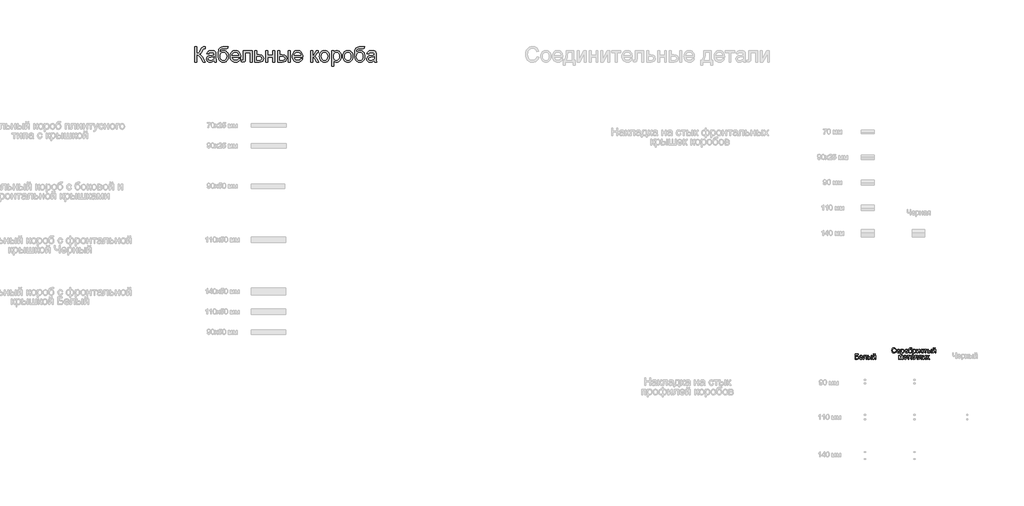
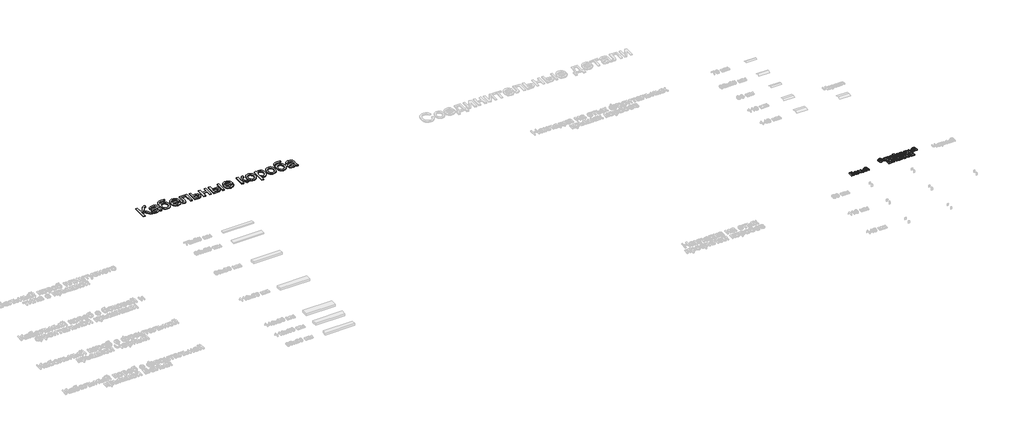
# One storey, part 31 of 48: 3 proxies.
"""IFC4 building model written with IfcOpenShell, lengths in millimetres."""

from ifc_helpers import new_model, si_unit, origin, origin_with_axes, place, context, project, spatial, polyline, outline, extrude, element, save

model = new_model("IFC4")

# Units and contexts
model_context = context("Model", 3, world=origin())
ifc_project = project(units=[si_unit("LENGTHUNIT", "METRE", prefix="MILLI")], contexts=[model_context])

# Site, building, storey
site = spatial("IfcSite", under=ifc_project)
building = spatial("IfcBuilding", under=site)
storey = spatial("IfcBuildingStorey", under=building, Name="Этаж 01", Elevation=0.0)

# Proxies
placement = place(None, origin())
element("IfcBuildingElementProxy", 1, Name="300 мм Arial", ObjectType="300 мм Arial", at=placement, inside=storey, context=model_context, shape_type="SweptSolid", body=[
    extrude(outline(polyline([(-106.1806555, 6199.2270475), (-68.5095392, 6199.2270475), (-68.5095392, 6067.3781405), (-43.0061198, 6069.870541), (-26.3870507, 6077.3477425), (-12.9501608, 6094.9416989), (3.0067207, 6127.7843641), (23.7920534, 6169.9068525), (33.8168378, 6181.3203914), (47.3365011, 6190.7657616), (63.3853532, 6197.1117261), (80.9977037, 6199.2270475), (105.7193738, 6198.7855891), (105.7193738, 6161.1144728), (97.4052407, 6161.335202), (89.0911076, 6161.5559312), (71.837442, 6159.2934569), (59.660548, 6152.5060341), (49.1759111, 6138.2506068), (37.2933227, 6113.7312718), (22.7159986, 6083.1970662), (10.621878, 6066.4952237), (-15.387379, 6050.8970271), (-0.7962594, 6044.6890184), (13.6936927, 6033.8640907), (42.3700942, 5998.3634782), (105.7193738, 5897.8581171), (62.0149927, 5897.8581171), (8.4513742, 5982.7652816), (-12.2327909, 6009.9977463), (-29.2565303, 6027.095062), (-46.6665457, 6036.1173679), (-68.5095392, 6039.1248032), (-68.5095392, 5897.8581171), (-106.1806555, 5897.8581171), (-106.1806555, 6199.2270475)])), origin_with_axes(), (0.0, 0.0, 1.0), 20.0),
    extrude(outline(polyline([(275.2393971, 5926.1114543), (257.2407705, 5910.6788046), (238.708715, 5900.5804438), (219.2201663, 5895.0070316), (198.3520601, 5893.1492275), (166.8705584, 5897.6189938), (143.6480075, 5911.0282925), (129.3282008, 5931.3905609), (124.5549319, 5956.7192363), (126.3575537, 5972.335827), (131.765419, 5986.5176779), (140.1071433, 5998.6577838), (150.7113418, 6008.1491392), (177.0884808, 6020.5099743), (209.6828256, 6026.175357), (248.2000705, 6032.1350453), (275.0186679, 6039.1248032), (275.2393971, 6047.5125127), (272.6458291, 6064.3247199), (264.8651249, 6075.3243915), (247.4643065, 6083.4913718), (223.220883, 6086.2136986), (200.7800813, 6084.4018798), (185.1083083, 6078.9664233), (174.4213364, 6068.9140478), (166.9349378, 6053.2514718), (129.2638215, 6057.9603614), (135.8029239, 6078.5617531), (145.5609938, 6094.7485609), (159.4485392, 6107.12779), (178.3760678, 6116.3064458), (201.5250424, 6121.9902226), (228.0769254, 6123.8848149), (253.5435565, 6122.2109518), (273.731081, 6117.1893626), (288.9521985, 6109.6385846), (299.5196088, 6100.3771554), (306.5277608, 6088.9268283), (311.0711035, 6074.8093568), (312.9105134, 6041.84713), (312.9105134, 5994.9789638), (314.8234998, 5929.5327569), (322.3282925, 5897.8581171), (284.6571762, 5897.8581171), (275.2393971, 5926.1114543)]), holes=[polyline([(275.2393971, 6001.4536869), (214.4652915, 5989.9021923), (182.0548878, 5983.7953511), (167.3763962, 5973.8625373), (162.2260482, 5959.3679867), (165.0311484, 5948.1659799), (173.4464491, 5938.9873241), (187.2880091, 5932.8620889), (206.3718876, 5930.8203438), (226.6053974, 5933.0736211), (244.4844623, 5939.8334527), (258.979013, 5949.7938577), (269.0589796, 5961.648855), (273.5287459, 5973.8625373), (275.0186679, 5990.7851091), (275.2393971, 6001.4536869)])]), origin_with_axes(), (0.0, 0.0, 1.0), 20.0),
    extrude(outline(polyline([(520.1016531, 6203.9359371), (553.0638799, 6203.9359371), (549.4954245, 6186.0292809), (543.3517952, 6174.5421656), (534.835327, 6167.7455458), (524.1483551, 6163.910376), (478.0159529, 6161.5559312), (439.7102401, 6159.3854274), (415.8806839, 6152.8739161), (401.6252566, 6141.5799389), (392.0419306, 6125.0620373), (386.404139, 6103.1914527), (383.9853149, 6075.8394263), (399.1328561, 6096.8822765), (416.6164479, 6111.8918619), (436.4544845, 6120.8865767), (458.6653599, 6123.8848149), (479.1885767, 6121.9787263), (497.8631865, 6116.2604606), (514.6891893, 6106.7300176), (529.666585, 6093.3873975), (541.9630407, 6076.7936203), (550.7462233, 6057.5097059), (556.0161329, 6035.5356545), (557.7727694, 6010.871466), (554.2870875, 5974.911001), (543.8300418, 5946.0506584), (528.5905302, 5923.6190538), (510.7574505, 5906.9448024), (488.1694959, 5896.5981212), (458.6653599, 5893.1492275), (424.6638665, 5897.5914026), (399.1788413, 5910.9179279), (380.4260566, 5931.1698317), (366.6212847, 5956.3881425), (358.1232107, 5994.3627615), (355.2905193, 6052.8835898), (357.0770462, 6092.5481667), (362.436627, 6125.1632048), (371.3692617, 6150.7287042), (383.8749503, 6169.2446649), (400.08705, 6182.3619573), (420.138918, 6191.7314519), (444.0305543, 6197.3531486), (471.761959, 6199.2270475), (513.7005064, 6200.0731761), (520.1016531, 6203.9359371)]), holes=[polyline([(520.1016531, 6012.0486884), (516.018163, 6041.6907801), (503.7676925, 6065.4283659), (484.0860058, 6081.0173654), (457.7088667, 6086.2136986), (430.2096876, 6080.7230598), (419.122644, 6073.8597614), (409.810631, 6064.2511435), (397.1738844, 6038.6005714), (392.9616356, 6005.5739653), (397.6153428, 5973.5590346), (411.5764646, 5950.0605722), (432.3617973, 5935.6304009), (457.4881376, 5930.8203438), (482.7432365, 5936.384559), (502.737623, 5953.0772046), (515.7606456, 5978.9485059), (520.1016531, 6012.0486884)])]), origin_with_axes(), (0.0, 0.0, 1.0), 20.0),
    extrude(outline(polyline([(759.8135612, 5963.7825706), (796.7489135, 5959.0736811), (783.4407823, 5931.2434081), (762.2047942, 5910.4396813), (733.5191956, 5897.471841), (697.8622332, 5893.1492275), (674.4879309, 5895.0139294), (653.6612115, 5900.608035), (635.3820748, 5909.9315443), (619.650521, 5922.9844573), (606.9999789, 5939.4034906), (597.9638774, 5958.8253607), (592.5422165, 5981.2500676), (590.7349962, 6006.6776112), (592.5606106, 6032.9673783), (598.0374538, 6056.1393455), (607.1655258, 6076.1935128), (619.9448266, 6093.1298801), (635.6349937, 6106.5851641), (653.4956646, 6116.1960812), (673.5268392, 6121.9626315), (695.7285176, 6123.8848149), (717.2151254, 6121.96723), (736.6461925, 6116.2144753), (754.021719, 6106.6265508), (769.3417049, 6093.2034565), (781.8473934, 6076.3038774), (790.7800281, 6056.2864983), (796.1396089, 6033.1513193), (797.9261359, 6006.8983404), (797.7054067, 5996.7447974), (628.4061125, 5996.7447974), (634.9268209, 5968.5466424), (650.074362, 5947.816492), (671.9357496, 5935.0693809), (698.5979972, 5930.8203438), (718.6475659, 5932.7885125), (735.5333495, 5938.6930185), (749.2553479, 5948.9017439), (759.8135612, 5963.7825706)]), holes=[polyline([(628.4061125, 6034.4159137), (760.2550196, 6034.4159137), (755.1598539, 6054.3183296), (745.1718578, 6068.5553628), (723.2093027, 6081.7991147), (695.5813648, 6086.2136986), (670.1883101, 6082.6912285), (649.1914452, 6072.1238182), (634.5957271, 6055.6519019), (628.4061125, 6034.4159137)])]), origin_with_axes(), (0.0, 0.0, 1.0), 20.0),
    extrude(outline(polyline([(854.4328103, 6119.1759254), (1023.9528337, 6119.1759254), (1023.9528337, 5898.0788463), (986.2817174, 5898.0788463), (986.2817174, 6081.5048091), (892.1039267, 6081.5048091), (892.1039267, 5975.9226765), (889.5655409, 5927.2151003), (884.8106661, 5916.1878375), (875.6228133, 5906.6504968), (861.6800857, 5900.056212), (842.6605865, 5897.8581171), (812.0528045, 5899.7711035), (812.0528045, 5935.5292334), (828.9017999, 5935.5292334), (845.9347363, 5937.84689), (852.7405532, 5945.2045299), (854.4328103, 5978.056392), (854.4328103, 6119.1759254)])), origin_with_axes(), (0.0, 0.0, 1.0), 20.0),
    extrude(outline(polyline([(1080.4595082, 6119.1759254), (1118.1306245, 6119.1759254), (1118.1306245, 6039.1248032), (1161.5406999, 6039.1248032), (1199.175028, 6034.4067166), (1214.3225692, 6028.5091084), (1227.0236951, 6020.2524569), (1237.0668735, 6009.9218706), (1244.2405724, 5997.8024581), (1249.9795316, 5968.1971546), (1245.0958981, 5941.2406014), (1230.4449976, 5918.496297), (1219.2131005, 5909.4670933), (1205.0519429, 5903.0176621), (1167.9418466, 5897.8581171), (1080.4595082, 5897.8581171), (1080.4595082, 6119.1759254)]), holes=[polyline([(1118.1306245, 5935.5292334), (1153.3001432, 5935.5292334), (1180.5877902, 5937.5065991), (1198.7335696, 5943.4386963), (1208.9147038, 5953.5646482), (1212.3084153, 5968.1235782), (1209.7976206, 5980.4292309), (1202.2652368, 5991.3001439), (1186.1244142, 5998.9153012), (1157.7883036, 6001.4536869), (1118.1306245, 6001.4536869), (1118.1306245, 5935.5292334)])]), origin_with_axes(), (0.0, 0.0, 1.0), 20.0),
    extrude(outline(polyline([(1297.0684269, 6119.1759254), (1334.7395432, 6119.1759254), (1334.7395432, 6034.4159137), (1433.6262236, 6034.4159137), (1433.6262236, 6119.1759254), (1471.2973399, 6119.1759254), (1471.2973399, 5897.8581171), (1433.6262236, 5897.8581171), (1433.6262236, 5996.7447974), (1334.7395432, 5996.7447974), (1334.7395432, 5897.8581171), (1297.0684269, 5897.8581171), (1297.0684269, 6119.1759254)])), origin_with_axes(), (0.0, 0.0, 1.0), 20.0),
    extrude(outline(polyline([(1734.995154, 6119.1759254), (1772.6662703, 6119.1759254), (1772.6662703, 5897.8581171), (1734.995154, 5897.8581171), (1734.995154, 6119.1759254)])), origin_with_axes(), (0.0, 0.0, 1.0), 20.0),
    extrude(outline(polyline([(1527.8040143, 6119.1759254), (1565.4751306, 6119.1759254), (1565.4751306, 6039.1248032), (1612.0489912, 6039.1248032), (1652.3044785, 6034.4067166), (1668.5211767, 6028.5091084), (1682.1305113, 6020.2524569), (1692.8979574, 6009.9218706), (1700.5889904, 5997.8024581), (1705.2036102, 5983.8942194), (1706.7418168, 5968.1971546), (1701.5822718, 5941.2406014), (1686.1036368, 5918.496297), (1674.2417418, 5909.4670933), (1659.2942364, 5903.0176621), (1620.1423951, 5897.8581171), (1527.8040143, 5897.8581171), (1527.8040143, 6119.1759254)]), holes=[polyline([(1565.4751306, 5935.5292334), (1604.1763165, 5935.5292334), (1634.1770932, 5937.5065991), (1654.1346915, 5943.4386963), (1665.3366982, 5953.5646482), (1669.0707005, 5968.1235782), (1666.3023885, 5980.4292309), (1657.9974524, 5991.3001439), (1640.2379491, 5998.9153012), (1609.1059353, 6001.4536869), (1565.4751306, 6001.4536869), (1565.4751306, 5935.5292334)])]), origin_with_axes(), (0.0, 0.0, 1.0), 20.0),
    extrude(outline(polyline([(1984.1248411, 5963.7825706), (2021.0601935, 5959.0736811), (2007.7520623, 5931.2434081), (1986.5160741, 5910.4396813), (1957.8304755, 5897.471841), (1922.1735131, 5893.1492275), (1898.7992109, 5895.0139294), (1877.9724914, 5900.608035), (1859.6933548, 5909.9315443), (1843.961801, 5922.9844573), (1831.3112589, 5939.4034906), (1822.2751574, 5958.8253607), (1816.8534965, 5981.2500676), (1815.0462762, 6006.6776112), (1816.8718906, 6032.9673783), (1822.3487338, 6056.1393455), (1831.4768058, 6076.1935128), (1844.2561066, 6093.1298801), (1859.9462737, 6106.5851641), (1877.8069445, 6116.1960812), (1897.8381192, 6121.9626315), (1920.0397976, 6123.8848149), (1941.5264054, 6121.96723), (1960.9574725, 6116.2144753), (1978.332999, 6106.6265508), (1993.6529848, 6093.2034565), (2006.1586734, 6076.3038774), (2015.0913081, 6056.2864983), (2020.4508889, 6033.1513193), (2022.2374158, 6006.8983404), (2022.0166866, 5996.7447974), (1852.7173925, 5996.7447974), (1859.2381008, 5968.5466424), (1874.385642, 5947.816492), (1896.2470295, 5935.0693809), (1922.9092771, 5930.8203438), (1942.9588459, 5932.7885125), (1959.8446295, 5938.6930185), (1973.5666279, 5948.9017439), (1984.1248411, 5963.7825706)]), holes=[polyline([(1852.7173925, 6034.4159137), (1984.5662995, 6034.4159137), (1979.4711339, 6054.3183296), (1969.4831377, 6068.5553628), (1947.5205826, 6081.7991147), (1919.8926448, 6086.2136986), (1894.4995901, 6082.6912285), (1873.5027252, 6072.1238182), (1858.907007, 6055.6519019), (1852.7173925, 6034.4159137)])]), origin_with_axes(), (0.0, 0.0, 1.0), 20.0),
    extrude(outline(polyline([(2177.6307706, 6119.1759254), (2215.3018869, 6119.1759254), (2215.3018869, 6024.9981346), (2230.624172, 6026.6903918), (2240.5385918, 6031.7671633), (2249.3125774, 6045.0109151), (2261.2135599, 6071.2041132), (2278.3936491, 6105.2331978), (2293.5503873, 6116.3064458), (2321.1047487, 6119.1759254), (2328.3152358, 6119.1759254), (2328.3152358, 6081.2840799), (2318.1616928, 6081.5048091), (2299.767593, 6077.5316835), (2286.8181468, 6052.736437), (2271.6246204, 6025.9178396), (2250.3242528, 6012.7844524), (2262.2620236, 6007.4823531), (2274.0894297, 5998.1243549), (2297.4131482, 5967.2406614), (2337.7330149, 5897.8581171), (2294.9115507, 5897.8581171), (2255.4010244, 5965.7691334), (2235.5353966, 5994.5007172), (2226.2463763, 5999.7154445), (2215.3018869, 6001.4536869), (2215.3018869, 5897.8581171), (2177.6307706, 5897.8581171), (2177.6307706, 6119.1759254)])), origin_with_axes(), (0.0, 0.0, 1.0), 20.0),
    extrude(outline(polyline([(2351.8596835, 6008.5170212), (2353.8968301, 6037.1796272), (2360.0082697, 6061.8783046), (2370.1940024, 6082.6130536), (2384.4540283, 6099.383874), (2398.8106231, 6110.1030357), (2414.6571401, 6117.7595797), (2431.9935791, 6122.3535061), (2450.8199402, 6123.8848149), (2471.6029737, 6122.020113), (2490.3948458, 6116.4260075), (2507.1955567, 6107.1024981), (2522.0051063, 6094.0495851), (2534.0923291, 6077.7087267), (2542.7260597, 6058.5213814), (2547.906298, 6036.4875492), (2549.6330441, 6011.60723), (2546.5796236, 5973.5498376), (2537.4193619, 5944.5791305), (2522.4189735, 5922.8832898), (2501.8451729, 5906.6504968), (2477.4086114, 5896.5245448), (2450.8199402, 5893.1492275), (2429.7334041, 5895.0070316), (2410.766788, 5900.5804438), (2393.9200919, 5909.8694642), (2379.1933158, 5922.8740927), (2367.2348517, 5939.3736002), (2358.6930916, 5959.1472575), (2353.5680355, 5982.1950645), (2351.8596835, 6008.5170212)]), holes=[polyline([(2389.5307998, 6008.5905976), (2393.8902015, 5974.4971337), (2406.9684064, 5950.207725), (2426.6500931, 5935.6671891), (2450.8199402, 5930.8203438), (2474.8794227, 5935.6947803), (2494.5243212, 5950.3180896), (2507.6025262, 5974.9293951), (2511.9619278, 6009.76782), (2507.574935, 6042.8680025), (2494.4139566, 6066.8263175), (2474.741467, 6081.3668533), (2450.8199402, 6086.2136986), (2426.6500931, 6081.3852474), (2406.9684064, 6066.8998939), (2393.8902015, 6042.6656674), (2389.5307998, 6008.5905976)])]), origin_with_axes(), (0.0, 0.0, 1.0), 20.0),
    extrude(outline(polyline([(2592.01305, 5813.0981054), (2592.01305, 6119.1759254), (2629.6841663, 6119.1759254), (2629.6841663, 6082.2405731), (2641.9714249, 6100.4599289), (2655.7302115, 6113.4737544), (2671.7698665, 6121.2820498), (2690.8997303, 6123.8848149), (2716.3755584, 6120.2427832), (2738.6508132, 6109.3166879), (2756.7873956, 6091.7687167), (2769.8472064, 6068.2610572), (2777.7382752, 6040.5043607), (2780.3686315, 6010.2092784), (2777.3979844, 5977.9920127), (2768.4860431, 5949.1776554), (2753.917916, 5925.2285375), (2733.9787119, 5907.6069899), (2710.756161, 5896.7636681), (2686.3379935, 5893.1492275), (2669.0199486, 5895.5680517), (2653.5597078, 5902.824524), (2640.325153, 5913.7782104), (2629.6841663, 5927.2886767), (2629.6841663, 5813.0981054), (2592.01305, 5813.0981054)]), holes=[polyline([(2629.6841663, 6006.7511876), (2633.7584594, 5972.9796205), (2645.9813387, 5949.3615964), (2664.0167535, 5935.455657), (2685.5286531, 5930.8203438), (2707.3900407, 5935.6212039), (2725.885308, 5950.023784), (2738.4944634, 5974.5063308), (2742.6975152, 6009.5470908), (2738.5956309, 6043.134717), (2726.2899782, 6067.0838349), (2708.2821545, 6081.4312327), (2687.0737575, 6086.2136986), (2665.782587, 6081.12773), (2647.0849846, 6065.8698243), (2634.0343709, 6040.918228), (2629.6841663, 6006.7511876)])]), origin_with_axes(), (0.0, 0.0, 1.0), 20.0),
    extrude(outline(polyline([(2813.3308583, 6008.5170212), (2815.3680048, 6037.1796272), (2821.4794445, 6061.8783046), (2831.6651772, 6082.6130536), (2845.925203, 6099.383874), (2860.2817979, 6110.1030357), (2876.1283148, 6117.7595797), (2893.4647539, 6122.3535061), (2912.291115, 6123.8848149), (2933.0741484, 6122.020113), (2951.8660206, 6116.4260075), (2968.6667315, 6107.1024981), (2983.476281, 6094.0495851), (2995.5635038, 6077.7087267), (3004.1972344, 6058.5213814), (3009.3774728, 6036.4875492), (3011.1042189, 6011.60723), (3008.0507983, 5973.5498376), (2998.8905366, 5944.5791305), (2983.8901483, 5922.8832898), (2963.3163477, 5906.6504968), (2938.8797862, 5896.5245448), (2912.291115, 5893.1492275), (2891.2045789, 5895.0070316), (2872.2379627, 5900.5804438), (2855.3912666, 5909.8694642), (2840.6644905, 5922.8740927), (2828.7060264, 5939.3736002), (2820.1642663, 5959.1472575), (2815.0392103, 5982.1950645), (2813.3308583, 6008.5170212)]), holes=[polyline([(2851.0019746, 6008.5905976), (2855.3613762, 5974.4971337), (2868.4395811, 5950.207725), (2888.1212679, 5935.6671891), (2912.291115, 5930.8203438), (2936.3505975, 5935.6947803), (2955.995496, 5950.3180896), (2969.0737009, 5974.9293951), (2973.4331026, 6009.76782), (2969.0461098, 6042.8680025), (2955.8851314, 6066.8263175), (2936.2126417, 6081.3668533), (2912.291115, 6086.2136986), (2888.1212679, 6081.3852474), (2868.4395811, 6066.8998939), (2855.3613762, 6042.6656674), (2851.0019746, 6008.5905976)])]), origin_with_axes(), (0.0, 0.0, 1.0), 20.0),
    extrude(outline(polyline([(3208.8775795, 6203.9359371), (3241.8398062, 6203.9359371), (3238.2713509, 6186.0292809), (3232.1277216, 6174.5421656), (3223.6112534, 6167.7455458), (3212.9242814, 6163.910376), (3166.7918792, 6161.5559312), (3128.4861665, 6159.3854274), (3104.6566102, 6152.8739161), (3090.4011829, 6141.5799389), (3080.817857, 6125.0620373), (3075.1800654, 6103.1914527), (3072.7612413, 6075.8394263), (3087.9087824, 6096.8822765), (3105.3923742, 6111.8918619), (3125.2304108, 6120.8865767), (3147.4412863, 6123.8848149), (3167.9645031, 6121.9787263), (3186.6391129, 6116.2604606), (3203.4651156, 6106.7300176), (3218.4425114, 6093.3873975), (3230.738967, 6076.7936203), (3239.5221497, 6057.5097059), (3244.7920593, 6035.5356545), (3246.5486958, 6010.871466), (3243.0630139, 5974.911001), (3232.6059682, 5946.0506584), (3217.3664565, 5923.6190538), (3199.5333768, 5906.9448024), (3176.9454223, 5896.5981212), (3147.4412863, 5893.1492275), (3113.4397929, 5897.5914026), (3087.9547677, 5910.9179279), (3069.201983, 5931.1698317), (3055.3972111, 5956.3881425), (3046.899137, 5994.3627615), (3044.0664456, 6052.8835898), (3045.8529726, 6092.5481667), (3051.2125534, 6125.1632048), (3060.1451881, 6150.7287042), (3072.6508767, 6169.2446649), (3088.8629763, 6182.3619573), (3108.9148443, 6191.7314519), (3132.8064807, 6197.3531486), (3160.5378853, 6199.2270475), (3202.4764328, 6200.0731761), (3208.8775795, 6203.9359371)]), holes=[polyline([(3208.8775795, 6012.0486884), (3204.7940893, 6041.6907801), (3192.5436189, 6065.4283659), (3172.8619322, 6081.0173654), (3146.4847931, 6086.2136986), (3118.985614, 6080.7230598), (3107.8985703, 6073.8597614), (3098.5865573, 6064.2511435), (3085.9498108, 6038.6005714), (3081.7375619, 6005.5739653), (3086.3912692, 5973.5590346), (3100.3523909, 5950.0605722), (3121.1377236, 5935.6304009), (3146.2640639, 5930.8203438), (3171.5191629, 5936.384559), (3191.5135493, 5953.0772046), (3204.5365719, 5978.9485059), (3208.8775795, 6012.0486884)])]), origin_with_axes(), (0.0, 0.0, 1.0), 20.0),
    extrude(outline(polyline([(3434.9042773, 5926.1114543), (3416.9056507, 5910.6788046), (3398.3735952, 5900.5804438), (3378.8850465, 5895.0070316), (3358.0169403, 5893.1492275), (3326.5354386, 5897.6189938), (3303.3128876, 5911.0282925), (3288.993081, 5931.3905609), (3284.2198121, 5956.7192363), (3286.0224339, 5972.335827), (3291.4302992, 5986.5176779), (3299.7720234, 5998.6577838), (3310.3762219, 6008.1491392), (3336.753361, 6020.5099743), (3369.3477058, 6026.175357), (3407.8649507, 6032.1350453), (3434.6835481, 6039.1248032), (3434.9042773, 6047.5125127), (3432.3107092, 6064.3247199), (3424.5300051, 6075.3243915), (3407.1291867, 6083.4913718), (3382.8857632, 6086.2136986), (3360.4449615, 6084.4018798), (3344.7731885, 6078.9664233), (3334.0862165, 6068.9140478), (3326.5998179, 6053.2514718), (3288.9287016, 6057.9603614), (3295.4678041, 6078.5617531), (3305.225874, 6094.7485609), (3319.1134193, 6107.12779), (3338.040948, 6116.3064458), (3361.1899225, 6121.9902226), (3387.7418055, 6123.8848149), (3413.2084366, 6122.2109518), (3433.3959611, 6117.1893626), (3448.6170787, 6109.6385846), (3459.184489, 6100.3771554), (3466.192641, 6088.9268283), (3470.7359836, 6074.8093568), (3472.5753936, 6041.84713), (3472.5753936, 5994.9789638), (3474.48838, 5929.5327569), (3481.9931727, 5897.8581171), (3444.3220564, 5897.8581171), (3434.9042773, 5926.1114543)]), holes=[polyline([(3434.9042773, 6001.4536869), (3374.1301717, 5989.9021923), (3341.7197679, 5983.7953511), (3327.0412763, 5973.8625373), (3321.8909284, 5959.3679867), (3324.6960286, 5948.1659799), (3333.1113292, 5938.9873241), (3346.9528893, 5932.8620889), (3366.0367678, 5930.8203438), (3386.2702776, 5933.0736211), (3404.1493425, 5939.8334527), (3418.6438931, 5949.7938577), (3428.7238598, 5961.648855), (3433.193626, 5973.8625373), (3434.6835481, 5990.7851091), (3434.9042773, 6001.4536869)])]), origin_with_axes(), (0.0, 0.0, 1.0), 20.0),
])
element("IfcBuildingElementProxy", 2, Name="100 мм Arial", ObjectType="100 мм Arial", at=placement, inside=storey, context=model_context, shape_type="SweptSolid", body=[
    extrude(outline(polyline([(12911.066508, 133.8288833), (12973.8517019, 133.8288833), (12973.8517019, 121.2718445), (12923.6235468, 121.2718445), (12923.6235468, 91.4488774), (12947.143469, 91.4488774), (12967.8674881, 88.8982289), (12980.2037976, 79.2597206), (12984.8391108, 62.7786073), (12981.5404356, 48.4679976), (12971.6934608, 37.5909533), (12949.3998119, 33.3725731), (12911.066508, 33.3725731), (12911.066508, 133.8288833)]), holes=[polyline([(12923.6235468, 45.9296119), (12950.5279834, 45.9296119), (12966.8374185, 50.0744157), (12970.9209086, 55.2554205), (12972.282072, 62.5088271), (12969.1673378, 72.3435391), (12960.4975854, 77.5919889), (12941.5761881, 78.8918386), (12923.6235468, 78.8918386), (12923.6235468, 45.9296119)])]), origin_with_axes(), (0.0, 0.0, 1.0), 20.0),
    extrude(outline(polyline([(13052.1860414, 55.347391), (13064.4978255, 53.7777611), (13060.0617817, 44.5010035), (13052.983119, 37.5664279), (13043.4212528, 33.2438144), (13031.5355987, 31.8029433), (13016.8019248, 34.2892124), (13005.465028, 41.7480199), (12998.2361468, 53.6949877), (12995.8265197, 69.6457378), (12998.2606722, 86.1329826), (13005.5631298, 98.4631608), (13016.7467425, 106.1518945), (13030.8243602, 108.7148057), (13044.4635851, 106.1580259), (13055.3620893, 98.4876863), (13062.508197, 86.1820335), (13064.8902329, 69.7193142), (13064.8166565, 66.3347999), (13008.3835585, 66.3347999), (13010.5571279, 56.9354149), (13015.6063083, 50.0253648), (13022.8934375, 45.7763277), (13031.7808534, 44.359982), (13044.0926375, 46.9842069), (13052.1860414, 55.347391)]), holes=[polyline([(13008.3835585, 78.8918386), (13052.3331942, 78.8918386), (13047.3054736, 90.271655), (13039.9846219, 94.686239), (13030.7753092, 96.157767), (13015.3120027, 91.4611401), (13010.4467633, 85.9705014), (13008.3835585, 78.8918386)])]), origin_with_axes(), (0.0, 0.0, 1.0), 20.0),
    extrude(outline(polyline([(13083.7257911, 107.1451759), (13140.2324655, 107.1451759), (13140.2324655, 33.4461495), (13127.6754268, 33.4461495), (13127.6754268, 94.5881371), (13096.2828298, 94.5881371), (13096.2828298, 59.3940929), (13095.4367013, 43.1582342), (13090.7891254, 36.3033663), (13079.8017165, 33.3725731), (13069.5991225, 34.0102352), (13069.5991225, 45.9296119), (13075.2154543, 45.9296119), (13080.8930997, 46.7021641), (13083.1617054, 49.1547107), (13083.7257911, 60.1053314), (13083.7257911, 107.1451759)])), origin_with_axes(), (0.0, 0.0, 1.0), 20.0),
    extrude(outline(polyline([(13228.1317369, 107.1451759), (13240.6887757, 107.1451759), (13240.6887757, 33.3725731), (13228.1317369, 33.3725731), (13228.1317369, 107.1451759)])), origin_with_axes(), (0.0, 0.0, 1.0), 20.0),
    extrude(outline(polyline([(13159.0680237, 107.1451759), (13171.6250625, 107.1451759), (13171.6250625, 80.4614685), (13187.1496827, 80.4614685), (13200.5681784, 78.888773), (13210.5101894, 74.1706864), (13216.6630157, 66.6873535), (13218.7139578, 56.8189189), (13216.9941095, 47.8334012), (13211.8345645, 40.2519664), (13202.8980977, 35.0924214), (13189.847484, 33.3725731), (13159.0680237, 33.3725731), (13159.0680237, 107.1451759)]), holes=[polyline([(13171.6250625, 45.9296119), (13184.5254578, 45.9296119), (13201.1782494, 48.5660995), (13206.1569191, 56.7943935), (13202.4658364, 64.5199154), (13186.168664, 67.9044297), (13171.6250625, 67.9044297), (13171.6250625, 45.9296119)])]), origin_with_axes(), (0.0, 0.0, 1.0), 20.0),
    extrude(outline(polyline([(13259.5243338, 107.1451759), (13272.0813726, 107.1451759), (13272.0813726, 50.8837561), (13302.9344093, 107.1451759), (13319.170268, 107.1451759), (13319.170268, 33.3725731), (13306.6132292, 33.3725731), (13306.6132292, 89.2906364), (13275.9563963, 33.3725731), (13259.5243338, 33.3725731), (13259.5243338, 107.1451759)])), origin_with_axes(), (0.0, 0.0, 1.0), 20.0),
    extrude(outline(polyline([(13300.3347098, 133.8288833), (13309.7524889, 133.8288833), (13303.6579105, 119.8616302), (13290.1321158, 114.9933251), (13275.4904124, 119.824842), (13268.9421129, 133.8288833), (13278.359892, 133.8288833), (13281.8915591, 126.7532862), (13289.0039444, 124.4111042), (13296.8030427, 126.6797098), (13300.3347098, 133.8288833)])), origin_with_axes(), (0.0, 0.0, 1.0), 20.0),
])
element("IfcBuildingElementProxy", 3, Name="100 мм Arial", ObjectType="100 мм Arial", at=placement, inside=storey, context=model_context, shape_type="SweptSolid", body=[
    extrude(outline(polyline([(13709.8151853, 192.2424137), (13722.3722241, 189.0050522), (13716.5780826, 174.3725458), (13707.485266, 163.6825082), (13695.5413639, 157.1434057), (13681.1939661, 154.9637049), (13666.6289047, 156.6130425), (13655.0620817, 161.5610553), (13646.1961256, 169.6360651), (13639.7336652, 180.6663936), (13634.4729527, 207.5217792), (13635.9598091, 222.169614), (13640.4203783, 234.8186233), (13647.6216683, 245.0672025), (13657.3306873, 252.5137473), (13668.8453938, 257.0478928), (13681.4637462, 258.5592747), (13695.2317299, 256.6033688), (13706.6146119, 250.7356509), (13715.2567731, 241.3178719), (13720.8025942, 228.7117822), (13708.2455555, 225.7196753), (13697.9448596, 241.1584563), (13680.9732369, 246.0022359), (13661.3283383, 240.6311588), (13650.2305648, 226.2101846), (13647.0299915, 207.5463047), (13650.819176, 185.9148434), (13662.6159253, 172.0947431), (13679.9431673, 167.5207436), (13690.4247385, 169.0781108), (13699.1588702, 173.7502121), (13705.7531549, 181.4879967), (13709.8151853, 192.2424137)])), origin_with_axes(), (0.0, 0.0, 1.0), 20.0),
    extrude(outline(polyline([(13789.7191547, 178.5081526), (13802.0309388, 176.9385227), (13797.594895, 167.6617651), (13790.5162323, 160.7271895), (13780.9543661, 156.404576), (13769.068712, 154.9637049), (13754.3350381, 157.449974), (13742.9981413, 164.9087815), (13735.7692601, 176.8557493), (13733.359633, 192.8064994), (13735.7937855, 209.2937442), (13743.0962431, 221.6239224), (13754.2798558, 229.3126561), (13768.3574735, 231.8755673), (13781.9966984, 229.3187875), (13792.8952025, 221.6484479), (13800.0413103, 209.3427951), (13802.4233462, 192.8800758), (13802.3497698, 189.4955615), (13745.9166718, 189.4955615), (13748.0902412, 180.0961765), (13753.1394216, 173.1861264), (13760.4265508, 168.9370893), (13769.3139667, 167.5207436), (13781.6257508, 170.1449685), (13789.7191547, 178.5081526)]), holes=[polyline([(13745.9166718, 202.0526003), (13789.8663075, 202.0526003), (13784.8385868, 213.4324166), (13777.5177351, 217.8470006), (13768.3084225, 219.3185286), (13752.845116, 214.6219018), (13747.9798766, 209.131263), (13745.9166718, 202.0526003)])]), origin_with_axes(), (0.0, 0.0, 1.0), 20.0),
    extrude(outline(polyline([(13814.980385, 128.2799975), (13814.980385, 230.3059375), (13827.5374238, 230.3059375), (13827.5374238, 217.9941534), (13836.2194388, 228.4052138), (13847.9426118, 231.8755673), (13863.8596394, 227.019525), (13874.2584371, 213.3343148), (13877.7655788, 193.9837218), (13873.804716, 173.6398475), (13862.3022723, 159.782959), (13846.4220328, 154.9637049), (13835.4959376, 158.1888037), (13827.5374238, 166.3435213), (13827.5374238, 128.2799975), (13814.980385, 128.2799975)]), holes=[polyline([(13827.5374238, 192.8310249), (13828.8955215, 181.5738359), (13832.9698146, 173.7011612), (13838.9816195, 169.065848), (13846.1522527, 167.5207436), (13853.4393819, 169.1210303), (13859.604471, 173.9218904), (13863.8075228, 182.0827393), (13865.2085401, 193.7629926), (13863.8412453, 204.958868), (13859.7393611, 212.9419073), (13853.7367532, 217.7243732), (13846.6672875, 219.3185286), (13839.5702307, 217.6232057), (13833.3376965, 212.5372371), (13828.987492, 204.2200383), (13827.5374238, 192.8310249)])]), origin_with_axes(), (0.0, 0.0, 1.0), 20.0),
    extrude(outline(polyline([(13943.5428796, 178.5081526), (13955.8546637, 176.9385227), (13951.4186199, 167.6617651), (13944.3399572, 160.7271895), (13934.778091, 156.404576), (13922.8924369, 154.9637049), (13908.158763, 157.449974), (13896.8218662, 164.9087815), (13889.592985, 176.8557493), (13887.1833579, 192.8064994), (13889.6175104, 209.2937442), (13896.919968, 221.6239224), (13908.1035807, 229.3126561), (13922.1811984, 231.8755673), (13935.8204234, 229.3187875), (13946.7189275, 221.6484479), (13953.8650352, 209.3427951), (13956.2470711, 192.8800758), (13956.1734947, 189.4955615), (13899.7403967, 189.4955615), (13901.9139661, 180.0961765), (13906.9631465, 173.1861264), (13914.2502757, 168.9370893), (13923.1376916, 167.5207436), (13935.4494757, 170.1449685), (13943.5428796, 178.5081526)]), holes=[polyline([(13899.7403967, 202.0526003), (13943.6900324, 202.0526003), (13938.6623118, 213.4324166), (13931.3414601, 217.8470006), (13922.1321474, 219.3185286), (13906.6688409, 214.6219018), (13901.8036015, 209.131263), (13899.7403967, 202.0526003)])]), origin_with_axes(), (0.0, 0.0, 1.0), 20.0),
    extrude(outline(polyline([(14020.6018948, 258.5592747), (14031.5893037, 258.5592747), (14028.3519422, 248.7613509), (14021.9507955, 245.217421), (14006.5733281, 244.4326061), (13985.8615717, 241.5386011), (13977.9153207, 232.2679748), (13975.2297821, 215.8604378), (13986.1068264, 227.8779163), (14000.1231304, 231.8755673), (14013.1890726, 229.3341159), (14023.7902055, 221.7097615), (14030.8167516, 209.750531), (14033.1589336, 194.204451), (14028.5113577, 172.5975152), (14017.4871606, 159.5622298), (14000.1231304, 154.9637049), (13988.7892993, 156.4444299), (13980.2942909, 160.886605), (13969.441772, 176.0433432), (13965.6648502, 208.2084923), (13968.0468861, 232.3016973), (13975.1929939, 246.9955173), (13987.2809831, 254.491113), (14004.4886634, 256.9896449), (14018.4681793, 257.2716877), (14020.6018948, 258.5592747)]), holes=[polyline([(14020.6018948, 194.5968585), (14019.2407314, 204.4775557), (14015.1572413, 212.3900843), (14008.596679, 217.5864175), (13999.8042994, 219.3185286), (13990.6379063, 217.4883156), (13983.8382208, 211.9976769), (13979.6259719, 203.4474862), (13978.221889, 192.4386174), (13979.7731247, 181.7669739), (13984.426832, 173.9341531), (13991.3552762, 169.124096), (13999.730723, 167.5207436), (14008.1490893, 169.375482), (14014.8138848, 174.9396972), (14019.1548923, 183.5634643), (14020.6018948, 194.5968585)])]), origin_with_axes(), (0.0, 0.0, 1.0), 20.0),
    extrude(outline(polyline([(14048.8552321, 128.2799975), (14048.8552321, 230.3059375), (14061.4122708, 230.3059375), (14061.4122708, 217.9941534), (14070.0942859, 228.4052138), (14081.8174588, 231.8755673), (14097.7344865, 227.019525), (14108.1332842, 213.3343148), (14111.6404259, 193.9837218), (14107.6795631, 173.6398475), (14096.1771194, 159.782959), (14080.2968799, 154.9637049), (14069.3707847, 158.1888037), (14061.4122708, 166.3435213), (14061.4122708, 128.2799975), (14048.8552321, 128.2799975)]), holes=[polyline([(14061.4122708, 192.8310249), (14062.7703685, 181.5738359), (14066.8446616, 173.7011612), (14072.8564666, 169.065848), (14080.0270998, 167.5207436), (14087.314229, 169.1210303), (14093.4793181, 173.9218904), (14097.6823699, 182.0827393), (14099.0833871, 193.7629926), (14097.7160924, 204.958868), (14093.6142081, 212.9419073), (14087.6116002, 217.7243732), (14080.5421346, 219.3185286), (14073.4450777, 217.6232057), (14067.2125436, 212.5372371), (14062.862339, 204.2200383), (14061.4122708, 192.8310249)])]), origin_with_axes(), (0.0, 0.0, 1.0), 20.0),
    extrude(outline(polyline([(14125.7670945, 230.3059375), (14138.3241333, 230.3059375), (14138.3241333, 174.0445177), (14169.1771699, 230.3059375), (14185.4130287, 230.3059375), (14185.4130287, 156.5333347), (14172.8559899, 156.5333347), (14172.8559899, 212.451398), (14142.199157, 156.5333347), (14125.7670945, 156.5333347), (14125.7670945, 230.3059375)])), origin_with_axes(), (0.0, 0.0, 1.0), 20.0),
    extrude(outline(polyline([(14251.3374822, 183.2170421), (14263.894521, 181.6474123), (14260.3935106, 170.479128), (14253.8145543, 162.0393019), (14244.77692, 156.7326041), (14233.8998756, 154.9637049), (14220.5426935, 157.4315799), (14210.0979105, 164.8352051), (14203.356473, 176.8496179), (14201.1093271, 193.149856), (14204.9475626, 214.0087651), (14216.6462101, 227.4119325), (14233.7281974, 231.8755673), (14244.3385272, 230.3427257), (14252.8212729, 225.7442007), (14258.9066543, 218.3252472), (14262.3248911, 208.3311196), (14249.7678524, 206.7614898), (14243.9430541, 216.1670061), (14233.8262992, 219.3185286), (14225.7114356, 217.7672928), (14219.270435, 213.1135856), (14215.0673832, 205.1060208), (14213.6663659, 193.4932125), (14215.0367263, 181.7240543), (14219.1478076, 173.6888984), (14225.4723123, 169.0627823), (14233.4829427, 167.5207436), (14245.3164802, 171.3712419), (14251.3374822, 183.2170421)])), origin_with_axes(), (0.0, 0.0, 1.0), 20.0),
    extrude(outline(polyline([(14268.6034105, 230.3059375), (14328.2493447, 230.3059375), (14328.2493447, 217.7488987), (14304.704897, 217.7488987), (14304.704897, 156.5333347), (14292.1478582, 156.5333347), (14292.1478582, 217.7488987), (14268.6034105, 217.7488987), (14268.6034105, 230.3059375)])), origin_with_axes(), (0.0, 0.0, 1.0), 20.0),
    extrude(outline(polyline([(14339.2367536, 230.3059375), (14351.7937923, 230.3059375), (14351.7937923, 203.6222301), (14367.3184125, 203.6222301), (14380.7369083, 202.0495346), (14390.6789192, 197.331448), (14396.8317456, 189.8481151), (14398.8826877, 179.9796805), (14397.1628394, 170.9941628), (14392.0032944, 163.412728), (14383.0668276, 158.253183), (14370.0162138, 156.5333347), (14339.2367536, 156.5333347), (14339.2367536, 230.3059375)]), holes=[polyline([(14351.7937923, 169.0903735), (14364.6941876, 169.0903735), (14381.3469793, 171.7268611), (14386.325649, 179.9551551), (14382.6345663, 187.680677), (14366.3373939, 191.0651913), (14351.7937923, 191.0651913), (14351.7937923, 169.0903735)])]), origin_with_axes(), (0.0, 0.0, 1.0), 20.0),
    extrude(outline(polyline([(14408.3004668, 230.3059375), (14420.8575056, 230.3059375), (14420.8575056, 156.5333347), (14408.3004668, 156.5333347), (14408.3004668, 230.3059375)])), origin_with_axes(), (0.0, 0.0, 1.0), 20.0),
    extrude(outline(polyline([(14439.6930637, 230.3059375), (14452.2501025, 230.3059375), (14452.2501025, 174.0445177), (14483.1031392, 230.3059375), (14499.3389979, 230.3059375), (14499.3389979, 156.5333347), (14486.7819591, 156.5333347), (14486.7819591, 212.451398), (14456.1251262, 156.5333347), (14439.6930637, 156.5333347), (14439.6930637, 230.3059375)])), origin_with_axes(), (0.0, 0.0, 1.0), 20.0),
    extrude(outline(polyline([(14480.5034397, 256.9896449), (14489.9212188, 256.9896449), (14483.8266404, 243.0223918), (14470.3008457, 238.1540867), (14455.6591423, 242.9856036), (14449.1108428, 256.9896449), (14458.5286219, 256.9896449), (14462.060289, 249.9140478), (14469.1726743, 247.5718658), (14476.9717726, 249.8404714), (14480.5034397, 256.9896449)])), origin_with_axes(), (0.0, 0.0, 1.0), 20.0),
    extrude(outline(polyline([(13769.4611195, 108.3311196), (13791.0680553, 108.3311196), (13807.7208469, 49.2737967), (13825.6734883, 108.3311196), (13846.3729819, 108.3311196), (13846.3729819, 34.5585169), (13833.8159431, 34.5585169), (13833.8159431, 93.9591964), (13815.7651999, 34.5585169), (13799.2840865, 34.5585169), (13782.0181582, 96.8041505), (13782.0181582, 34.5585169), (13769.4611195, 34.5585169), (13769.4611195, 108.3311196)])), origin_with_axes(), (0.0, 0.0, 1.0), 20.0),
    extrude(outline(polyline([(13916.8591722, 56.5333347), (13929.1709563, 54.9637049), (13924.7349126, 45.6869472), (13917.6562498, 38.7523716), (13908.0943837, 34.4297582), (13896.2087295, 32.988887), (13881.4750556, 35.4751562), (13870.1381588, 42.9339636), (13862.9092776, 54.8809314), (13860.4996505, 70.8316816), (13862.9338031, 87.3189263), (13870.2362607, 99.6491046), (13881.4198733, 107.3378382), (13895.497491, 109.9007495), (13909.136716, 107.3439696), (13920.0352201, 99.67363), (13927.1813278, 87.3679773), (13929.5633638, 70.905258), (13929.4897874, 67.5207436), (13873.0566893, 67.5207436), (13875.2302587, 58.1213587), (13880.2794391, 51.2113085), (13887.5665683, 46.9622715), (13896.4539842, 45.5459258), (13908.7657683, 48.1701507), (13916.8591722, 56.5333347)]), holes=[polyline([(13873.0566893, 80.0777824), (13917.006325, 80.0777824), (13911.9786044, 91.4575988), (13904.6577527, 95.8721827), (13895.4484401, 97.3437107), (13879.9851335, 92.6470839), (13875.1198941, 87.1564451), (13873.0566893, 80.0777824)])]), origin_with_axes(), (0.0, 0.0, 1.0), 20.0),
    extrude(outline(polyline([(13935.8418831, 108.3311196), (13995.4878173, 108.3311196), (13995.4878173, 95.7740809), (13971.9433696, 95.7740809), (13971.9433696, 34.5585169), (13959.3863308, 34.5585169), (13959.3863308, 95.7740809), (13935.8418831, 95.7740809), (13935.8418831, 108.3311196)])), origin_with_axes(), (0.0, 0.0, 1.0), 20.0),
    extrude(outline(polyline([(14053.5641216, 43.9762959), (14041.3872276, 35.4659591), (14027.9350093, 32.988887), (14017.4411754, 34.4788091), (14009.700325, 38.9485753), (14004.9270561, 45.7359982), (14003.3359665, 54.1788899), (14005.7394622, 64.1117038), (14012.0547698, 71.3221909), (14020.8471495, 75.4424693), (14031.7119311, 77.3309302), (14053.4905452, 81.6474123), (14053.5641216, 84.4433154), (14050.1060308, 93.7139417), (14036.2246169, 97.3437107), (14023.5204253, 94.9279523), (14017.4626351, 86.3563018), (14004.9055964, 87.9259316), (14010.3379872, 100.1886648), (14021.2763451, 107.3746264), (14037.8432977, 109.9007495), (14053.0613495, 107.668932), (14061.6575255, 102.064863), (14065.5080237, 93.5422634), (14066.1211604, 82.5548545), (14066.1211604, 66.9321324), (14066.7588225, 45.1167301), (14069.2604201, 34.5585169), (14056.7033813, 34.5585169), (14053.5641216, 43.9762959)]), holes=[polyline([(14053.5641216, 69.0903735), (14033.3060864, 65.2398753), (14022.5026185, 63.2042616), (14017.6097879, 59.8933236), (14015.8930053, 55.0618067), (14019.6331389, 48.2682526), (14030.6082851, 45.5459258), (14043.3124767, 48.5502954), (14051.5039824, 55.8220962), (14053.4905452, 65.5341809), (14053.5641216, 69.0903735)])]), origin_with_axes(), (0.0, 0.0, 1.0), 20.0),
    extrude(outline(polyline([(14089.6656081, 108.3311196), (14146.1722825, 108.3311196), (14146.1722825, 34.6320933), (14133.6152437, 34.6320933), (14133.6152437, 95.7740809), (14102.2226468, 95.7740809), (14102.2226468, 60.5800367), (14101.3765182, 44.3441779), (14096.7289424, 37.4893101), (14085.7415334, 34.5585169), (14075.5389394, 35.196179), (14075.5389394, 47.1155556), (14081.1552712, 47.1155556), (14086.8329167, 47.8881078), (14089.1015223, 50.3406545), (14089.6656081, 61.2912752), (14089.6656081, 108.3311196)])), origin_with_axes(), (0.0, 0.0, 1.0), 20.0),
    extrude(outline(polyline([(14171.28636, 108.3311196), (14227.7930345, 108.3311196), (14227.7930345, 34.6320933), (14215.2359957, 34.6320933), (14215.2359957, 95.7740809), (14183.8433988, 95.7740809), (14183.8433988, 60.5800367), (14182.9972702, 44.3441779), (14178.3496944, 37.4893101), (14167.3622854, 34.5585169), (14157.1596914, 35.196179), (14157.1596914, 47.1155556), (14162.7760232, 47.1155556), (14168.4536687, 47.8881078), (14170.7222743, 50.3406545), (14171.28636, 61.2912752), (14171.28636, 108.3311196)])), origin_with_axes(), (0.0, 0.0, 1.0), 20.0),
    extrude(outline(polyline([(14246.6285927, 108.3311196), (14259.1856314, 108.3311196), (14259.1856314, 52.0696998), (14290.0386681, 108.3311196), (14306.2745268, 108.3311196), (14306.2745268, 34.5585169), (14293.717488, 34.5585169), (14293.717488, 90.4765801), (14263.0606551, 34.5585169), (14246.6285927, 34.5585169), (14246.6285927, 108.3311196)])), origin_with_axes(), (0.0, 0.0, 1.0), 20.0),
    extrude(outline(polyline([(14325.110085, 108.3311196), (14337.6671237, 108.3311196), (14337.6671237, 76.9385227), (14346.0793587, 79.1948656), (14352.9710147, 92.3405156), (14358.6977111, 103.6835438), (14363.7499572, 107.3746264), (14372.9347443, 108.3311196), (14375.33824, 108.3311196), (14375.33824, 95.7005045), (14371.9537257, 95.7740809), (14365.8223591, 94.4497057), (14361.505877, 86.1846235), (14356.4413682, 77.245091), (14349.3412457, 72.8672953), (14357.2629713, 67.9805961), (14365.0375442, 57.6860316), (14378.4774997, 34.5585169), (14364.2036783, 34.5585169), (14351.0335029, 57.1955223), (14344.411627, 66.7727169), (14337.6671237, 69.0903735), (14337.6671237, 34.5585169), (14325.110085, 34.5585169), (14325.110085, 108.3311196)])), origin_with_axes(), (0.0, 0.0, 1.0), 20.0),
])

save(model, "model.ifc")
